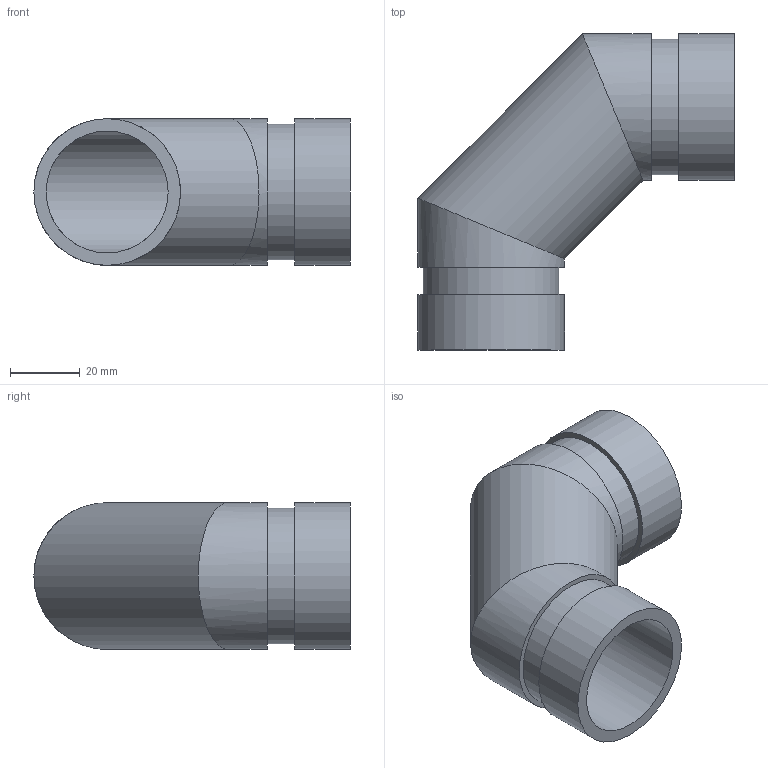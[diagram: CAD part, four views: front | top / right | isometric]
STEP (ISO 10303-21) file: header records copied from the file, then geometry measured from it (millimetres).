
FILE_DESCRIPTION(/* description */ ('VIC 90 DEG ELBOW FABRICATED No 10 SWS (OGS)','CAx-IF Rec.Pracs.---Representation and Presentation of Product Manufacturing Information (PMI)---4.0---2014-10-13'),/* implementation_level */ '2;1');
FILE_NAME(/* name */ 'C:\Users\kkamble\AppData\Roaming\Autodesk\ApplicationPlugins\Back Up\Victaulic_IPS_Elbow 90 Deg_No 10 SWS (OGS)\Victaulic_IPS_Elbow 90 Deg_No 10 SWS (OGS)_1.25 (32).stp',/* time_stamp */ '2020-09-16T22:17:17+06:00',/* author */ ('cgray'),/* organization */ ('Victaulic'),/* preprocessor_version */ 'ST-DEVELOPER v17.2',/* originating_system */ 'Autodesk Inventor 2019',/* authorisation */ '');
FILE_SCHEMA (('AP242_MANAGED_MODEL_BASED_3D_ENGINEERING_MIM_LF { 1 0 10303 442 1 1 4 }'));
Length unit declared in the file: inch
Products named in the file (1): 10 SWS-01.25
Bounding box: 90.93 x 90.93 x 42.16 mm (x, y, z)
Volume: 48212.2 mm3; surface area: 30439.2 mm2
Topology: 1 solids, 1 shells, 16 faces, 38 edges, 28 vertices
Faces by surface type: cylinder 10, plane 6
Full cylindrical faces by diameter (mm): 35.052 x3, 38.989 x2, 42.164 x5
Entity records: 646 total; most frequent: DIRECTION 126, CARTESIAN_POINT 100, ORIENTED_EDGE 76, AXIS2_PLACEMENT_3D 58, EDGE_CURVE 38, VERTEX_POINT 28, EDGE_LOOP 22, STYLED_ITEM 18
